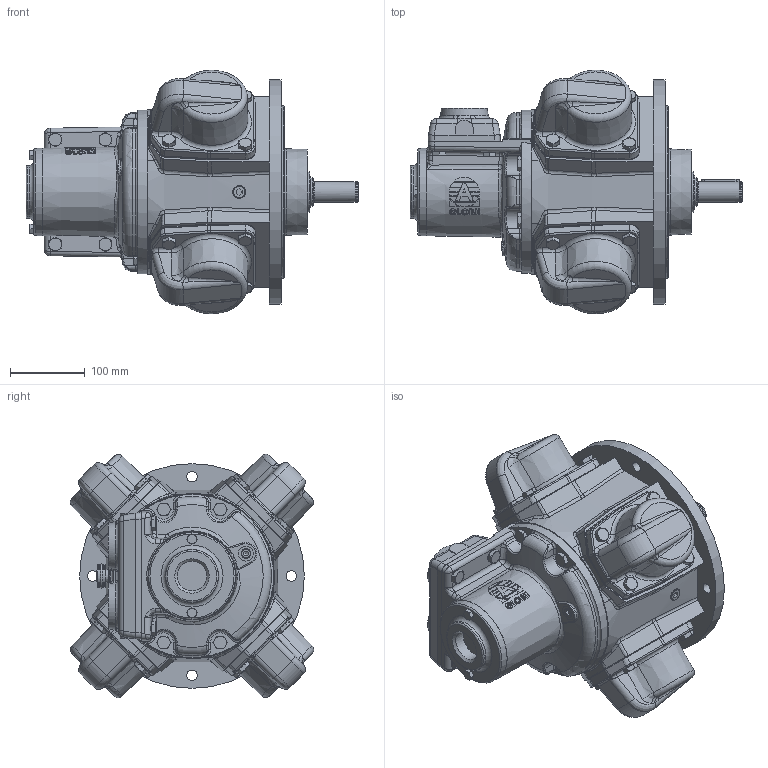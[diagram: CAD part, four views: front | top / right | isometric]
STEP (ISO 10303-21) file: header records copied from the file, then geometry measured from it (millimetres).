
FILE_DESCRIPTION (( 'STEP AP214' ), '1' );
FILE_NAME ('RM410 Defeature + Logo.STEP', '2023-05-17T13:46:35', ( '' ), ( '' ), 'SwSTEP 2.0', 'SolidWorks 2022', '' );
FILE_SCHEMA (( 'AUTOMOTIVE_DESIGN' ));
Length unit declared in the file: millimetre
Products named in the file (1): RM410 Defeature + Logo
Bounding box: 443.23 x 324.89 x 324.89 mm (x, y, z)
Volume: 15032839.5 mm3; surface area: 530212.1 mm2
Topology: 1 solids, 1 shells, 1906 faces, 4681 edges, 2854 vertices
Faces by surface type: plane 804, bspline 412, cylinder 316, cone 299, torus 69, sphere 6
Full cylindrical faces by diameter (mm): 3.1 x2, 3.175 x1, 12.453 x2, 13.157 x1, 14 x4, 16 x4, 17 x24, 18 x4, 20 x1, 28.003 x1, 38.05 x1, 39.5 x3, 54 x1, 56.1 x1, 77.7 x1, 90 x1, 218 x1, 229.965 x1, 300 x1
Entity records: 96043 total; most frequent: CARTESIAN_POINT 54242, ORIENTED_EDGE 9050, DIRECTION 7133, EDGE_CURVE 4525, VERTEX_POINT 2815, AXIS2_PLACEMENT_3D 2765, EDGE_LOOP 2106, FACE_OUTER_BOUND 1970
